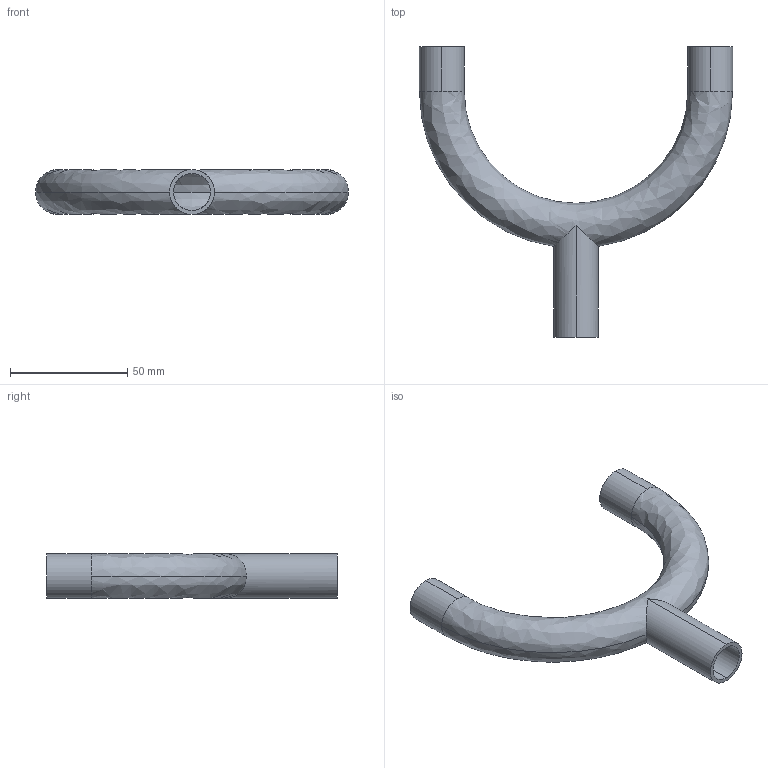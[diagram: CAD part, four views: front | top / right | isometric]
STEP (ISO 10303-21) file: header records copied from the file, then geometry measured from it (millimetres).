
FILE_DESCRIPTION (( 'STEP AP214' ), '1' );
FILE_NAME ('TE2UBWWW6L.75x.75-...STEP', '2016-05-25T05:25:15', ( 'eran' ), ( '' ), 'SwSTEP 2.0', 'SolidWorks 2016', '' );
FILE_SCHEMA (( 'AUTOMOTIVE_DESIGN' ));
Length unit declared in the file: millimetre
Products named in the file (1): TE2UBWWW6L.75x.75-..
Bounding box: 133.35 x 123.8 x 19.05 mm (x, y, z)
Volume: 22946.5 mm3; surface area: 28077.9 mm2
Topology: 1 solids, 1 shells, 19 faces, 54 edges, 36 vertices
Faces by surface type: cylinder 12, bspline 4, plane 3
Entity records: 1057 total; most frequent: CARTESIAN_POINT 515, DIRECTION 112, ORIENTED_EDGE 108, EDGE_CURVE 54, AXIS2_PLACEMENT_3D 50, VERTEX_POINT 36, CIRCLE 34, EDGE_LOOP 22
